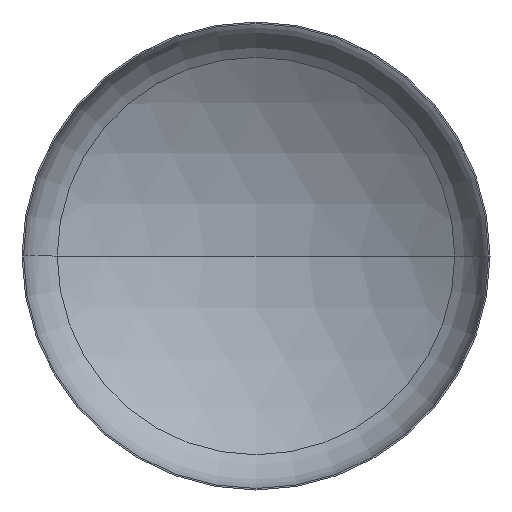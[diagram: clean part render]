
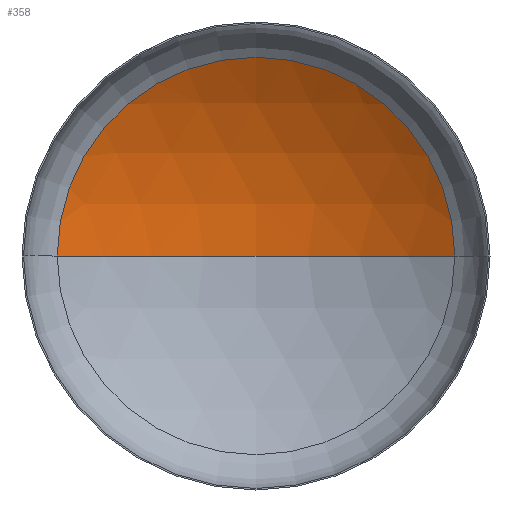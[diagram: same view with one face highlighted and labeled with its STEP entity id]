
A CAD part, front view. The second image highlights one B-rep face of the part: STEP entity #358.
In plain terms, the highlighted spherical face has radius 3040 mm.
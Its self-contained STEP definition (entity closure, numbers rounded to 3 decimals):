
#3 = AXIS2_PLACEMENT_3D ( 'NONE', #32, #202, #34 ) ;
#4 = AXIS2_PLACEMENT_3D ( 'NONE', #71, #163, #164 ) ;
#9 = DIRECTION ( 'NONE',  ( 0., 0., -1. ) ) ;
#19 = EDGE_LOOP ( 'NONE', ( #48, #38, #153 ) ) ;
#32 = CARTESIAN_POINT ( 'NONE',  ( 0., -2040.677, 0. ) ) ;
#34 = DIRECTION ( 'NONE',  ( 1., 0., 0. ) ) ;
#38 = ORIENTED_EDGE ( 'NONE', *, *, #349, .T. ) ;
#43 = VERTEX_POINT ( 'NONE', #248 ) ;
#48 = ORIENTED_EDGE ( 'NONE', *, *, #354, .F. ) ;
#51 = VERTEX_POINT ( 'NONE', #237 ) ;
#54 = AXIS2_PLACEMENT_3D ( 'NONE', #213, #214, #223 ) ;
#71 = CARTESIAN_POINT ( 'NONE',  ( 0., -2040.677, 0. ) ) ;
#85 = VERTEX_POINT ( 'NONE', #236 ) ;
#147 = EDGE_CURVE ( 'NONE', #85, #43, #254, .T. ) ;
#153 = ORIENTED_EDGE ( 'NONE', *, *, #147, .T. ) ;
#154 = SPHERICAL_SURFACE ( 'NONE', #338, 3040. ) ;
#162 = CARTESIAN_POINT ( 'NONE',  ( 0., -2040.677, 0. ) ) ;
#163 = DIRECTION ( 'NONE',  ( 0., 0., -1. ) ) ;
#164 = DIRECTION ( 'NONE',  ( -1., 0., 0. ) ) ;
#189 = DIRECTION ( 'NONE',  ( -1., 0., 0. ) ) ;
#202 = DIRECTION ( 'NONE',  ( 0., 0., 1. ) ) ;
#213 = CARTESIAN_POINT ( 'NONE',  ( 0., 535.803, 0. ) ) ;
#214 = DIRECTION ( 'NONE',  ( 0., -1., 0. ) ) ;
#221 = CIRCLE ( 'NONE', #3, 3040. ) ;
#223 = DIRECTION ( 'NONE',  ( 1., 0., 0. ) ) ;
#229 = FACE_OUTER_BOUND ( 'NONE', #19, .T. ) ;
#236 = CARTESIAN_POINT ( 'NONE',  ( 1613.491, 535.803, 0. ) ) ;
#237 = CARTESIAN_POINT ( 'NONE',  ( 0., 999.323, 0. ) ) ;
#248 = CARTESIAN_POINT ( 'NONE',  ( -1613.491, 535.803, 0. ) ) ;
#254 = CIRCLE ( 'NONE', #54, 1613.491 ) ;
#338 = AXIS2_PLACEMENT_3D ( 'NONE', #162, #9, #189 ) ;
#343 = CIRCLE ( 'NONE', #4, 3040. ) ;
#349 = EDGE_CURVE ( 'NONE', #51, #85, #343, .T. ) ;
#354 = EDGE_CURVE ( 'NONE', #51, #43, #221, .T. ) ;
#358 = ADVANCED_FACE ( 'NONE', ( #229 ), #154, .F. ) ;
